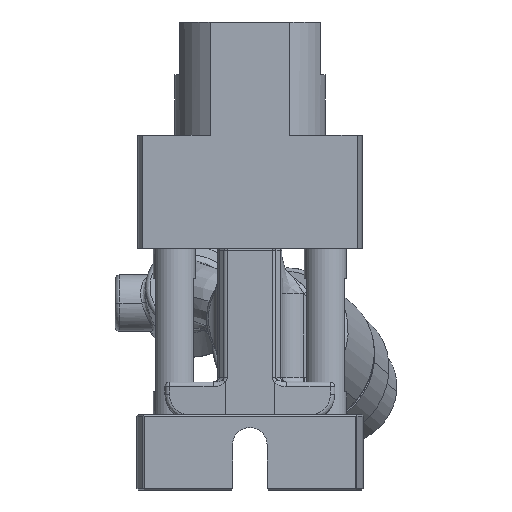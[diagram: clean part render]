
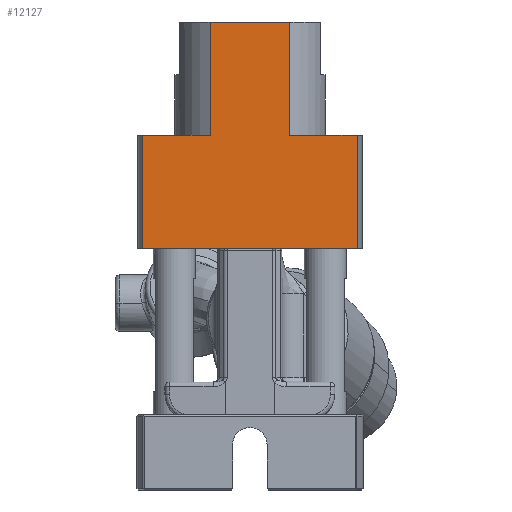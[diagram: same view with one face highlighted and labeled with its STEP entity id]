
A CAD part, front view. The second image highlights one B-rep face of the part: STEP entity #12127.
In plain terms, the highlighted planar face has unit normal (0, -1, 0).
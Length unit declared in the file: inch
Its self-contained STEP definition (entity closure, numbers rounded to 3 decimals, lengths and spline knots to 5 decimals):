
#11382=DIRECTION('',(1.,0.,0.));
#11383=VECTOR('',#11382,0.44682);
#11384=CARTESIAN_POINT('',(0.26339,-0.25,0.73));
#11385=LINE('',#11384,#11383);
#11390=DIRECTION('',(1.,0.,0.));
#11391=VECTOR('',#11390,0.44682);
#11392=CARTESIAN_POINT('',(-0.71021,-0.25,0.73));
#11393=LINE('',#11392,#11391);
#11554=DIRECTION('',(0.,0.,1.));
#11555=VECTOR('',#11554,0.75);
#11556=CARTESIAN_POINT('',(-0.26339,-0.25,0.73));
#11557=LINE('',#11556,#11555);
#11576=DIRECTION('',(0.,0.,1.));
#11577=VECTOR('',#11576,0.75);
#11578=CARTESIAN_POINT('',(0.26339,-0.25,0.73));
#11579=LINE('',#11578,#11577);
#11613=DIRECTION('',(1.,0.,0.));
#11614=VECTOR('',#11613,0.52678);
#11615=CARTESIAN_POINT('',(-0.26339,-0.25,1.48));
#11616=LINE('',#11615,#11614);
#11617=DIRECTION('',(0.,0.,-1.));
#11618=VECTOR('',#11617,0.75);
#11619=CARTESIAN_POINT('',(0.71021,-0.25,0.73));
#11620=LINE('',#11619,#11618);
#11635=DIRECTION('',(0.,0.,-1.));
#11636=VECTOR('',#11635,0.75);
#11637=CARTESIAN_POINT('',(-0.71021,-0.25,0.73));
#11638=LINE('',#11637,#11636);
#11653=DIRECTION('',(1.,0.,0.));
#11654=VECTOR('',#11653,1.42042);
#11655=CARTESIAN_POINT('',(-0.71021,-0.25,-0.02));
#11656=LINE('',#11655,#11654);
#11669=CARTESIAN_POINT('',(0.71021,-0.25,0.73));
#11670=CARTESIAN_POINT('',(0.71021,-0.25,-0.02));
#11671=VERTEX_POINT('',#11669);
#11672=VERTEX_POINT('',#11670);
#11673=CARTESIAN_POINT('',(-0.71021,-0.25,0.73));
#11674=CARTESIAN_POINT('',(-0.71021,-0.25,-0.02));
#11675=VERTEX_POINT('',#11673);
#11676=VERTEX_POINT('',#11674);
#11677=CARTESIAN_POINT('',(-0.26339,-0.25,1.48));
#11678=CARTESIAN_POINT('',(0.26339,-0.25,1.48));
#11679=VERTEX_POINT('',#11677);
#11680=VERTEX_POINT('',#11678);
#11681=CARTESIAN_POINT('',(-0.26339,-0.25,0.73));
#11682=VERTEX_POINT('',#11681);
#11683=CARTESIAN_POINT('',(0.26339,-0.25,0.73));
#11684=VERTEX_POINT('',#11683);
#12109=CARTESIAN_POINT('',(-0.71021,-0.25,0.73));
#12110=DIRECTION('',(0.,1.,0.));
#12111=DIRECTION('',(1.,0.,0.));
#12112=AXIS2_PLACEMENT_3D('',#12109,#12110,#12111);
#12113=PLANE('',#12112);
#12114=ORIENTED_EDGE('',*,*,#11746,.T.);
#12115=ORIENTED_EDGE('',*,*,#12002,.T.);
#12116=ORIENTED_EDGE('',*,*,#12079,.T.);
#12117=ORIENTED_EDGE('',*,*,#12011,.F.);
#12118=ORIENTED_EDGE('',*,*,#11730,.T.);
#12120=ORIENTED_EDGE('',*,*,#12119,.T.);
#12122=ORIENTED_EDGE('',*,*,#12121,.F.);
#12124=ORIENTED_EDGE('',*,*,#12123,.F.);
#12125=EDGE_LOOP('',(#12114,#12115,#12116,#12117,#12118,#12120,#12122,#12124));
#12126=FACE_OUTER_BOUND('',#12125,.F.);
#12127=ADVANCED_FACE('',(#12126),#12113,.F.);
#11730=EDGE_CURVE('',#11684,#11671,#11385,.T.);
#11746=EDGE_CURVE('',#11675,#11682,#11393,.T.);
#12002=EDGE_CURVE('',#11682,#11679,#11557,.T.);
#12011=EDGE_CURVE('',#11684,#11680,#11579,.T.);
#12079=EDGE_CURVE('',#11679,#11680,#11616,.T.);
#12119=EDGE_CURVE('',#11671,#11672,#11620,.T.);
#12121=EDGE_CURVE('',#11676,#11672,#11656,.T.);
#12123=EDGE_CURVE('',#11675,#11676,#11638,.T.);
